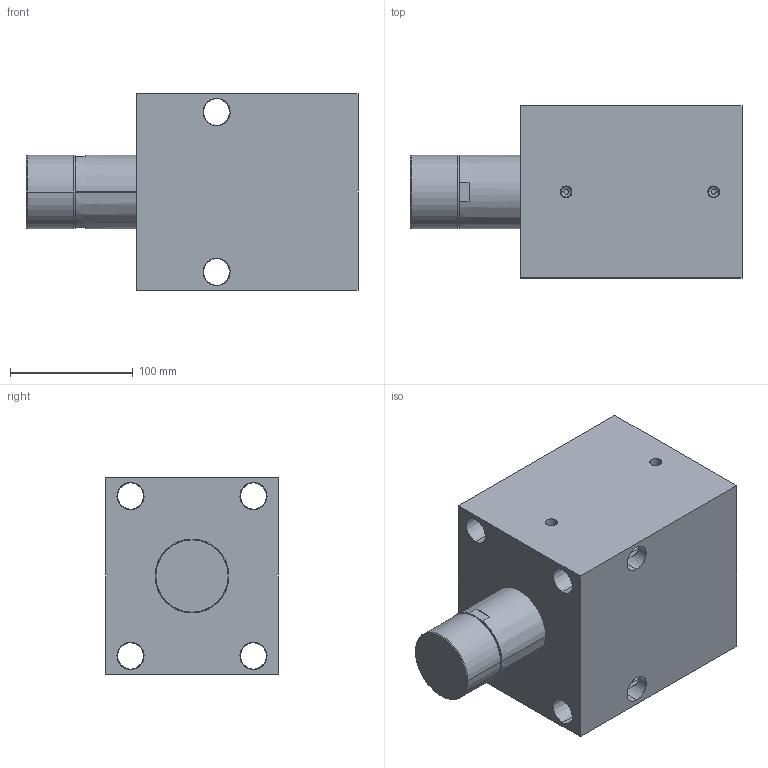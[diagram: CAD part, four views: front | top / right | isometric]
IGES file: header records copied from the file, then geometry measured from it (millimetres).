
Start section: SolidWorks IGES file using analytic representation for surfaces
Global section: file name: C:\Documents and Settings\rajib\Desktop\Rajib\BLOCK CYLINDER HYDRAULIC\0901-0906\IGES 0901-0908\0903.IGS; native system: SolidWorks 2007; preprocessor: SolidWorks 2007; author: rajib; date: 110121.164953; units: millimetre
Bounding box: 270 x 140 x 160 mm (x, y, z)
Surface area: 245993.6 mm2 (no closed solid volume)
Topology: 0 solids, 0 shells, 76 faces, 1968 edges, 1968 vertices
Faces by surface type: revolution 54, bspline 22
